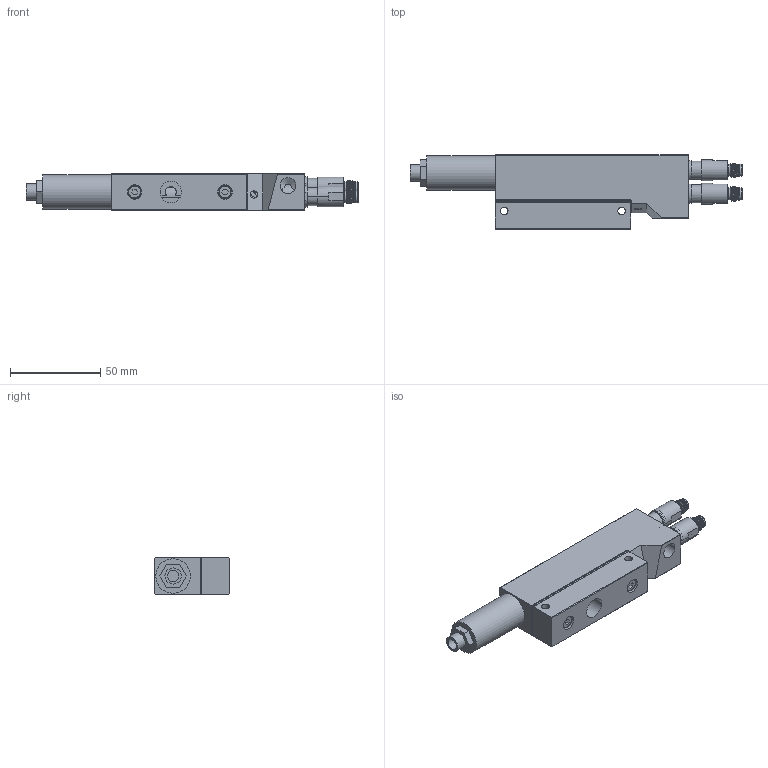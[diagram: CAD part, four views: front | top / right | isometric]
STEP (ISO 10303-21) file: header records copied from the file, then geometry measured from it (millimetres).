
FILE_DESCRIPTION (( 'STEP AP214' ), '1' );
FILE_NAME ('DSV-195DV-UPDATED.STEP', '2025-09-15T18:27:13', ( '' ), ( '' ), 'SwSTEP 2.0', 'SolidWorks 2025', '' );
FILE_SCHEMA (( 'AUTOMOTIVE_DESIGN' ));
Length unit declared in the file: millimetre
Products named in the file (8): ECMDV130_7; ECMDV130_9; ECMDV130_11; ECMDV130_13; GS-ST14; ECMDV130_3; ECMDV130_5; DSV-195DV-UPDATED
Assembly tree (7 placements, depth 2):
  DSV-195DV-UPDATED
    ECMDV130_3
    ECMDV130_5
    ECMDV130_7
    ECMDV130_9
    ECMDV130_11
    ECMDV130_13
    GS-ST14
Bounding box: 183.9 x 41 x 20 mm (x, y, z)
Volume: 93303.9 mm3; surface area: 29334.5 mm2
Topology: 25 solids, 25 shells, 961 faces, 2632 edges, 1718 vertices
Faces by surface type: cylinder 463, plane 270, cone 84, torus 76, bspline 60, sphere 8
Full cylindrical faces by diameter (mm): 8.95 x1, 12.6 x1, 19.1 x1
Entity records: 41895 total; most frequent: CARTESIAN_POINT 18198, ORIENTED_EDGE 5230, DIRECTION 4523, EDGE_CURVE 2615, AXIS2_PLACEMENT_3D 1779, VERTEX_POINT 1717, EDGE_LOOP 1034, VECTOR 965
